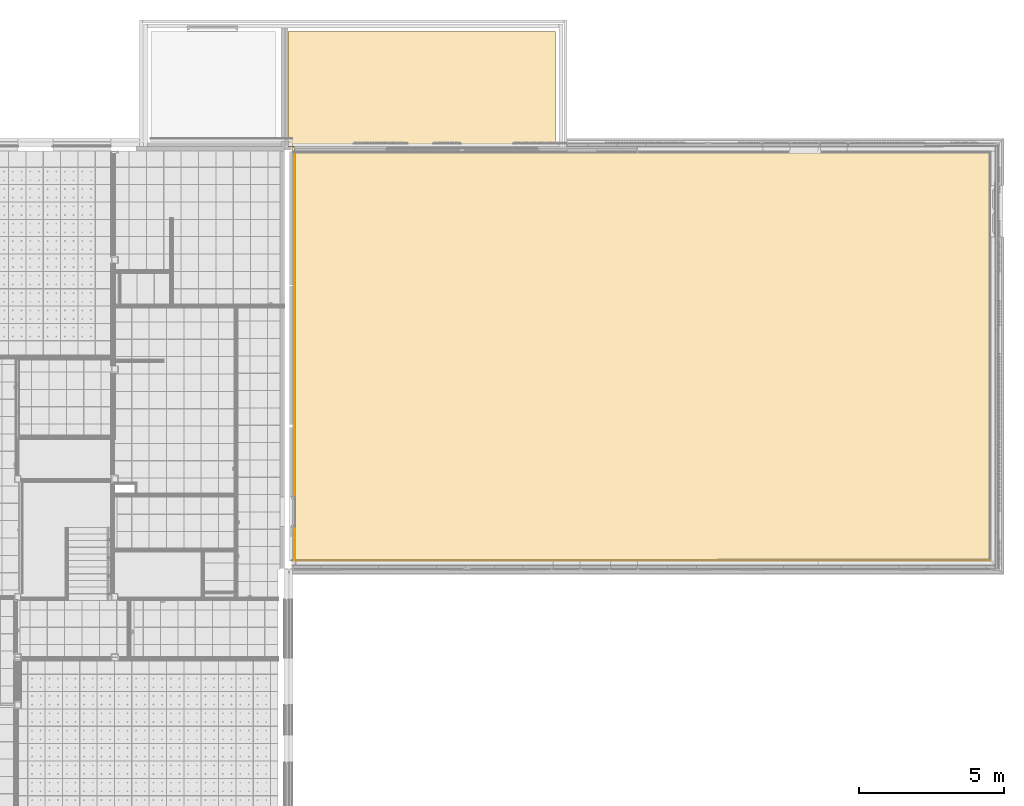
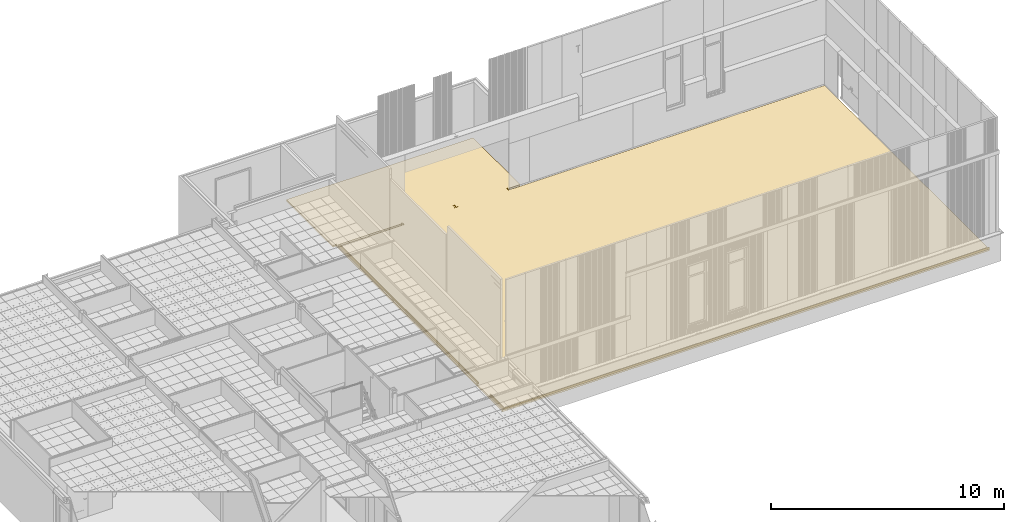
# One storey, part 119 of 338: 4 coverings.
"""IFC2X3 building model written with IfcOpenShell, lengths in millimetres."""

from ifc_helpers import new_model, entity, si_unit, converted_unit, derived_unit, money_unit, direction, frame, origin_with_axes, place, context, subcontext, project, spatial, faceted_brep, material, type_object, element, save


model = new_model("IFC2X3")

# Units and contexts
model_context = context("Model", 3, precision=0.01, world=origin_with_axes(), true_north=direction((0.0, 1.0)))
plan_context = context("Plan", 3, precision=0.01, world=origin_with_axes(), true_north=direction((0.0, 1.0)))
body_context = subcontext(model_context, "Body", "Model", "MODEL_VIEW")
ifc_project = project(units=[si_unit("LENGTHUNIT", "METRE", prefix="MILLI"), si_unit("AREAUNIT", "SQUARE_METRE"), si_unit("VOLUMEUNIT", "CUBIC_METRE"), converted_unit("PLANEANGLEUNIT", "DEGREE", entity("IfcPlaneAngleMeasure", 0.0174532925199), si_unit("PLANEANGLEUNIT", "RADIAN"), dimensions=[0, 0, 0, 0, 0, 0, 0]), money_unit("EUR"), converted_unit("TIMEUNIT", "Year", entity("IfcTimeMeasure", 31556926.0), si_unit("TIMEUNIT", "SECOND"), dimensions=[0, 0, 1, 0, 0, 0, 0]), si_unit("MASSUNIT", "GRAM", prefix="KILO"), si_unit("THERMODYNAMICTEMPERATUREUNIT", "DEGREE_CELSIUS"), si_unit("LUMINOUSINTENSITYUNIT", "LUMEN"), si_unit("ENERGYUNIT", "JOULE", prefix="MEGA"), derived_unit("THERMALCONDUCTANCEUNIT", [(si_unit("POWERUNIT", "WATT"), 1), (si_unit("LENGTHUNIT", "METRE"), -1), (si_unit("THERMODYNAMICTEMPERATUREUNIT", "KELVIN"), -1)]), derived_unit("SPECIFICHEATCAPACITYUNIT", [(si_unit("ENERGYUNIT", "JOULE"), 1), (si_unit("MASSUNIT", "GRAM", prefix="KILO"), -1), (si_unit("THERMODYNAMICTEMPERATUREUNIT", "KELVIN"), -1)]), derived_unit("MASSDENSITYUNIT", [(si_unit("MASSUNIT", "GRAM", prefix="KILO"), 1), (si_unit("VOLUMEUNIT", "CUBIC_METRE"), -1)])], contexts=[model_context, plan_context])

# Site, building, storey
site_placement = place(None, origin_with_axes())
site = spatial("IfcSite", under=ifc_project, at=site_placement, Name="Fortuinstraat Woensdrecht", CompositionType="ELEMENT")
building_placement = place(site_placement, origin_with_axes())
building = spatial("IfcBuilding", under=site, at=building_placement, Name="IKC Fortuna", CompositionType="ELEMENT")
storey_placement = place(building_placement, origin_with_axes())
storey = spatial("IfcBuildingStorey", under=building, at=storey_placement, Name="00 begane grond", CompositionType="ELEMENT", Elevation=0.0)

# Coverings
ifc_material_1 = material(Name="Cement")
covering_type_1 = type_object("IfcCoveringType", Name="43 Vloerafwerking gym 90", PredefinedType="FLOORING")
covering_1_placement = place(storey_placement, frame((34953.4270571, 39476.2966282, 0.0), z_axis=(0.0, 0.0, 1.0), x_axis=(1.0, 0.0, 0.0)))
element("IfcCovering", 1, at=covering_1_placement, inside=storey, type_object=covering_type_1, material=ifc_material_1, Name="43_Vloerafwerking_Vloerafwerking", PredefinedType="FLOORING", context=body_context, shape_type="Brep", body=[
    faceted_brep([(118.0, -3989.5, 0.0), (46.0, -3989.5, 0.0), (46.0, -3980.0, 0.0), (226.0, -3980.0, 0.0), (226.0, -3989.5, 0.0), (154.0, -3989.5, 0.0), (146.5, -3991.50961894, 0.0), (141.009618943, -3997.0, 0.0), (140.205771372, -3999.99999998, 0.0), (159.99999994, -3999.99999998, 0.0), (159.99999994, -4141.5, 0.0), (226.0, -4141.5, 0.0), (226.0, -4051.00375726, 0.0), (3380.0, -4051.00375726, 0.0), (3380.0, -4147.73834071, 0.0), (3381.32601889, -4144.34690108, 0.0), (3384.60074511, -4142.75430665, 0.0), (3423.79850978, -4139.61430017, 0.0), (3430.34796223, -4136.42911131, 0.0), (3433.0, -4129.64623205, 0.0), (3433.0, -4032.35382392, 0.0), (3430.34796223, -4025.57094466, 0.0), (3423.79850978, -4022.3857558, 0.0), (3384.60074511, -4019.24574932, 0.0), (3381.32601889, -4017.65315489, 0.0), (3380.0, -4014.26171526, 0.0), (3380.0, -4011.00002798, 0.0), (3440.0, -4011.00002798, 0.0), (3440.0, -4151.00002798, 0.0), (159.99999994, -4151.0, 0.0), (159.99999994, -8777.0, 0.0), (197.0, -8777.0, 0.0), (204.5, -8774.99038106, 0.0), (209.990381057, -8769.5, 0.0), (212.0, -8762.0, 0.0), (212.0, -8690.0, 0.0), (221.5, -8690.0, 0.0), (221.5, -8870.0, 0.0), (212.0, -8870.0, 0.0), (212.0, -8798.0, 0.0), (209.990381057, -8790.5, 0.0), (204.5, -8785.00961894, 0.0), (197.0, -8783.0, 0.0), (159.99999994, -8783.0, 0.0), (159.99999994, -13677.0, 0.0), (197.0, -13677.0, 0.0), (204.5, -13674.9903811, 0.0), (209.990381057, -13669.5, 0.0), (212.0, -13662.0, 0.0), (212.0, -13590.0, 0.0), (221.5, -13590.0, 0.0), (221.5, -13770.0, 0.0), (212.0, -13770.0, 0.0), (212.0, -13698.0, 0.0), (209.990381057, -13690.5, 0.0), (204.5, -13685.0096189, 0.0), (197.0, -13683.0, 0.0), (159.99999994, -13683.0, 0.0), (159.99999994, -16090.6706794, 0.0), (165.429083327, -16088.5479622, 0.0), (168.614272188, -16081.9985098, 0.0), (171.754278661, -16042.8007451, 0.0), (173.346873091, -16039.5260189, 0.0), (176.738312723, -16038.2, 0.0), (180.0, -16038.2, 0.0), (180.0, -16098.2, 0.0), (159.99999994, -16098.2, 0.0), (159.99999994, -17132.2, 0.0), (180.0, -17132.2, 0.0), (180.0, -17192.2, 0.0), (176.738312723, -17192.2, 0.0), (173.346873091, -17190.8739811, 0.0), (171.754278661, -17187.5992549, 0.0), (168.614272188, -17148.4014902, 0.0), (165.429083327, -17141.8520378, 0.0), (159.99999994, -17139.7293206, 0.0), (159.99999994, -18309.0, 0.0), (24309.0, -18309.0, 0.0), (24309.0, -4151.0, 0.0), (9260.00089506, -4151.0, 0.0), (8620.0, -4151.00001699, 0.0), (8620.0, -4011.00001699, 0.0), (8680.0, -4011.00001699, 0.0), (8680.0, -4014.26170426, 0.0), (8678.67398111, -4017.6531439, 0.0), (8675.39925489, -4019.24573833, 0.0), (8636.20149022, -4022.3857448, 0.0), (8629.65203777, -4025.57093366, 0.0), (8627.0, -4032.35381292, 0.0), (8627.0, -4129.64622105, 0.0), (8629.65203777, -4136.42910031, 0.0), (8636.20149022, -4139.61428918, 0.0), (8675.39925489, -4142.75429565, 0.0), (8678.67398111, -4144.34689008, 0.0), (8680.0, -4147.73832971, 0.0), (8680.0, -4051.0, 0.0), (9260.00089506, -4051.0, 0.0), (9260.00089506, 0.0, 0.0), (0.0, 0.0, 0.0), (0.0, -3999.99999998, 0.0), (131.794228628, -3999.99999998, 0.0), (130.990381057, -3997.0, 0.0), (125.5, -3991.50961894, 0.0), (6019.5, -3991.50961894, 0.0), (6012.0, -3989.5, 0.0), (5940.0, -3989.5, 0.0), (5940.0, -3980.0, 0.0), (6120.0, -3980.0, 0.0), (6120.0, -3989.5, 0.0), (6048.0, -3989.5, 0.0), (6040.5, -3991.50961894, 0.0), (6035.00961894, -3997.0, 0.0), (6033.0, -4004.5, 0.0), (6033.0, -4126.5, 0.0), (6035.00961894, -4134.0, 0.0), (6040.5, -4139.49038106, 0.0), (6048.0, -4141.5, 0.0), (6120.0, -4141.5, 0.0), (6120.0, -4151.0, 0.0), (5940.0, -4151.0, 0.0), (5940.0, -4141.5, 0.0), (6012.0, -4141.5, 0.0), (6019.5, -4139.49038106, 0.0), (6024.99038106, -4134.0, 0.0), (6027.0, -4126.5, 0.0), (6027.0, -4004.5, 0.0), (6024.99038106, -3997.0, 0.0), (46.0, -3989.5, -50.0), (118.0, -3989.5, -50.0), (46.0, -3980.0, -50.0), (226.0, -3980.0, -50.0), (226.0, -3989.5, -50.0), (154.0, -3989.5, -50.0), (146.5, -3991.50961894, -50.0), (141.009618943, -3997.0, -50.0), (140.205771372, -3999.99999998, -50.0), (131.794228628, -3999.99999998, -50.0), (0.0, -3999.99999998, -90.0), (159.99999994, -3999.99999998, -90.0), (159.99999994, -4151.0, -50.0), (159.99999994, -4141.5, -50.0), (159.99999994, -16090.6706794, -90.0), (159.99999994, -13683.0, -50.0), (159.99999994, -13677.0, -50.0), (159.99999994, -8783.0, -50.0), (159.99999994, -8777.0, -50.0), (226.0, -4141.5, -50.0), (226.0, -4151.0, -50.0), (226.0, -4151.00375726, -90.0), (226.0, -4051.00375726, -90.0), (3380.0, -4051.00375726, -90.0), (3380.0, -4147.73834071, -50.0), (3380.0, -4151.00375726, -90.0), (3380.0, -4151.00002798, -50.0), (3381.32601889, -4144.34690108, -50.0), (3384.60074511, -4142.75430665, -50.0), (3423.79850978, -4139.61430017, -50.0), (3430.34796223, -4136.42911131, -50.0), (3433.0, -4129.64623205, -50.0), (3433.0, -4032.35382392, -50.0), (3430.34796223, -4025.57094466, -50.0), (3423.79850978, -4022.3857558, -50.0), (3384.60074511, -4019.24574932, -50.0), (3381.32601889, -4017.65315489, -50.0), (3380.0, -4014.26171526, -50.0), (3380.0, -4011.00002798, -50.0), (3440.0, -4011.00002798, -50.0), (3440.0, -4151.00002798, -50.0), (197.0, -8777.0, -50.0), (204.5, -8774.99038106, -50.0), (209.990381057, -8769.5, -50.0), (212.0, -8762.0, -50.0), (212.0, -8690.0, -50.0), (221.5, -8690.0, -50.0), (221.5, -8870.0, -50.0), (212.0, -8870.0, -50.0), (212.0, -8798.0, -50.0), (209.990381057, -8790.5, -50.0), (204.5, -8785.00961894, -50.0), (197.0, -8783.0, -50.0), (197.0, -13677.0, -50.0), (204.5, -13674.9903811, -50.0), (209.990381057, -13669.5, -50.0), (212.0, -13662.0, -50.0), (212.0, -13590.0, -50.0), (221.5, -13590.0, -50.0), (221.5, -13770.0, -50.0), (212.0, -13770.0, -50.0), (212.0, -13698.0, -50.0), (209.990381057, -13690.5, -50.0), (204.5, -13685.0096189, -50.0), (197.0, -13683.0, -50.0), (165.429083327, -16088.5479622, -90.0), (168.614272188, -16081.9985098, -90.0), (171.754278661, -16042.8007451, -90.0), (173.346873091, -16039.5260189, -90.0), (176.738312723, -16038.2, -90.0), (180.0, -16038.2, -90.0), (180.0, -16098.2, -90.0), (159.99999994, -16098.2, -90.0), (159.99999994, -17132.2, -90.0), (180.0, -17132.2, -90.0), (180.0, -17192.2, -90.0), (176.738312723, -17192.2, -90.0), (173.346873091, -17190.8739811, -90.0), (171.754278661, -17187.5992549, -90.0), (168.614272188, -17148.4014902, -90.0), (165.429083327, -17141.8520378, -90.0), (159.99999994, -17139.7293206, -90.0), (159.99999994, -18309.1468464, -90.0), (159.99999994, -18309.1468464, -50.0), (159.99999994, -18309.0, -50.0), (18420.0, -18309.0, -50.0), (18420.0, -18309.0, -90.0), (24300.0, -18309.0, -90.0), (24300.0, -18309.0, -50.0), (24309.0, -18309.0, -50.0), (226.0, -18309.0, -50.0), (226.0, -18309.0, -90.0), (5940.0, -18309.0, -90.0), (5940.0, -18309.0, -50.0), (6120.0, -18309.0, -50.0), (6120.0, -18309.0, -90.0), (12090.0000037, -18309.0, -90.0), (12090.0, -18309.0, -50.0), (12270.0, -18309.0, -50.0), (12270.0, -18309.0, -90.0), (18240.0, -18309.0, -90.0), (18240.0, -18309.0, -50.0), (24309.0, -4151.0, -90.0), (24309.0, -18309.1468464, -50.0), (24309.0, -18309.1468464, -90.0), (9260.00089506, -4151.0, -90.0), (8680.0, -4151.0, -90.0), (8680.0, -4151.00001699, -50.0), (8620.0, -4151.00001699, -50.0), (8620.0, -4011.00001699, -50.0), (8680.0, -4011.00001699, -50.0), (8680.0, -4014.26170426, -50.0), (8678.67398111, -4017.6531439, -50.0), (8675.39925489, -4019.24573833, -50.0), (8636.20149022, -4022.3857448, -50.0), (8629.65203777, -4025.57093366, -50.0), (8627.0, -4032.35381292, -50.0), (8627.0, -4129.64622105, -50.0), (8629.65203777, -4136.42910031, -50.0), (8636.20149022, -4139.61428918, -50.0), (8675.39925489, -4142.75429565, -50.0), (8678.67398111, -4144.34689008, -50.0), (8680.0, -4147.73832971, -50.0), (8680.0, -4051.0, -90.0), (9260.00089506, -4051.0, -90.0), (9260.00089506, 0.0, -90.0), (0.0, 0.0, -90.0), (130.990381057, -3997.0, -50.0), (125.5, -3991.50961894, -50.0), (6019.5, -3991.50961894, -50.0), (6012.0, -3989.5, -50.0), (5940.0, -3989.5, -50.0), (5940.0, -3980.0, -50.0), (6120.0, -3980.0, -50.0), (6120.0, -3989.5, -50.0), (6048.0, -3989.5, -50.0), (6040.5, -3991.50961894, -50.0), (6035.00961894, -3997.0, -50.0), (6033.0, -4004.5, -50.0), (6033.0, -4126.5, -50.0), (6035.00961894, -4134.0, -50.0), (6040.5, -4139.49038106, -50.0), (6048.0, -4141.5, -50.0), (6120.0, -4141.5, -50.0), (6120.0, -4151.0, -50.0), (5940.0, -4151.0, -50.0), (5940.0, -4141.5, -50.0), (6012.0, -4141.5, -50.0), (6019.5, -4139.49038106, -50.0), (6024.99038106, -4134.0, -50.0), (6027.0, -4126.5, -50.0), (6027.0, -4004.5, -50.0), (6024.99038106, -3997.0, -50.0), (226.0, -18309.1468464, -90.0), (24300.0, -18309.1468464, -90.0), (18420.0, -18309.1468464, -90.0), (18240.0, -18309.1468464, -90.0), (12270.0, -18309.1468464, -90.0), (12090.0000168, -18309.1468464, -90.0), (6120.0, -18309.1468464, -90.0), (5940.0, -18309.1468464, -90.0), (226.0, -18309.1468464, -50.0), (18420.0, -18309.1468464, -50.0), (24300.0, -18309.1468464, -50.0), (5940.0, -18309.1468464, -50.0), (6120.0, -18309.1468464, -50.0), (12090.0, -18309.1468464, -50.0), (12270.0, -18309.1468464, -50.0), (18240.0, -18309.1468464, -50.0)], [[[0, 1, 2, 3, 4, 5, 6, 7, 8, 9, 10, 11, 12, 13, 14, 15, 16, 17, 18, 19, 20, 21, 22, 23, 24, 25, 26, 27, 28, 29, 30, 31, 32, 33, 34, 35, 36, 37, 38, 39, 40, 41, 42, 43, 44, 45, 46, 47, 48, 49, 50, 51, 52, 53, 54, 55, 56, 57, 58, 59, 60, 61, 62, 63, 64, 65, 66, 67, 68, 69, 70, 71, 72, 73, 74, 75, 76, 77, 78, 79, 80, 81, 82, 83, 84, 85, 86, 87, 88, 89, 90, 91, 92, 93, 94, 95, 96, 97, 98, 99, 100, 101, 102], [103, 104, 105, 106, 107, 108, 109, 110, 111, 112, 113, 114, 115, 116, 117, 118, 119, 120, 121, 122, 123, 124, 125, 126]], [[127, 1, 0, 128]], [[129, 2, 1, 127]], [[130, 3, 2, 129]], [[131, 4, 3, 130]], [[132, 5, 4, 131]], [[133, 6, 5, 132]], [[134, 7, 6, 133]], [[135, 8, 7, 134]], [[135, 136, 100, 99, 137, 138, 9, 8]], [[139, 140, 10, 9, 138, 141, 58, 57, 142, 143, 44, 43, 144, 145, 30, 29]], [[140, 146, 11, 10]], [[11, 146, 147, 148, 149, 12]], [[150, 13, 12, 149]], [[151, 14, 13, 150, 152, 153]], [[15, 14, 151, 154]], [[16, 15, 154, 155]], [[17, 16, 155, 156]], [[18, 17, 156, 157]], [[19, 18, 157, 158]], [[20, 19, 158, 159]], [[21, 20, 159, 160]], [[22, 21, 160, 161]], [[23, 22, 161, 162]], [[24, 23, 162, 163]], [[25, 24, 163, 164]], [[26, 25, 164, 165]], [[27, 26, 165, 166]], [[28, 27, 166, 167]], [[148, 147, 139, 29, 28, 167, 153, 152]], [[30, 145, 168, 31]], [[31, 168, 169, 32]], [[32, 169, 170, 33]], [[33, 170, 171, 34]], [[34, 171, 172, 35]], [[35, 172, 173, 36]], [[36, 173, 174, 37]], [[37, 174, 175, 38]], [[38, 175, 176, 39]], [[39, 176, 177, 40]], [[40, 177, 178, 41]], [[41, 178, 179, 42]], [[42, 179, 144, 43]], [[45, 44, 143, 180]], [[46, 45, 180, 181]], [[47, 46, 181, 182]], [[48, 47, 182, 183]], [[49, 48, 183, 184]], [[50, 49, 184, 185]], [[51, 50, 185, 186]], [[52, 51, 186, 187]], [[53, 52, 187, 188]], [[54, 53, 188, 189]], [[55, 54, 189, 190]], [[56, 55, 190, 191]], [[57, 56, 191, 142]], [[192, 59, 58, 141]], [[193, 60, 59, 192]], [[194, 61, 60, 193]], [[195, 62, 61, 194]], [[196, 63, 62, 195]], [[197, 64, 63, 196]], [[198, 65, 64, 197]], [[199, 66, 65, 198]], [[66, 199, 200, 67]], [[200, 201, 68, 67]], [[201, 202, 69, 68]], [[202, 203, 70, 69]], [[203, 204, 71, 70]], [[204, 205, 72, 71]], [[205, 206, 73, 72]], [[206, 207, 74, 73]], [[207, 208, 75, 74]], [[208, 209, 210, 211, 76, 75]], [[212, 213, 214, 215, 216, 77, 76, 211, 217, 218, 219, 220, 221, 222, 223, 224, 225, 226, 227, 228]], [[229, 78, 77, 216, 230, 231]], [[229, 232, 79, 78]], [[80, 79, 232, 233, 234, 235]], [[80, 235, 236, 81]], [[81, 236, 237, 82]], [[82, 237, 238, 83]], [[83, 238, 239, 84]], [[84, 239, 240, 85]], [[85, 240, 241, 86]], [[86, 241, 242, 87]], [[87, 242, 243, 88]], [[88, 243, 244, 89]], [[89, 244, 245, 90]], [[90, 245, 246, 91]], [[91, 246, 247, 92]], [[92, 247, 248, 93]], [[94, 93, 248, 249]], [[234, 233, 250, 95, 94, 249]], [[250, 251, 96, 95]], [[97, 96, 251, 252]], [[98, 97, 252, 253]], [[99, 98, 253, 137]], [[254, 101, 100, 136]], [[255, 102, 101, 254]], [[128, 0, 102, 255]], [[256, 257, 104, 103]], [[257, 258, 105, 104]], [[258, 259, 106, 105]], [[259, 260, 107, 106]], [[260, 261, 108, 107]], [[261, 262, 109, 108]], [[262, 263, 110, 109]], [[263, 264, 111, 110]], [[264, 265, 112, 111]], [[265, 266, 113, 112]], [[266, 267, 114, 113]], [[267, 268, 115, 114]], [[268, 269, 116, 115]], [[269, 270, 117, 116]], [[270, 271, 118, 117]], [[271, 272, 119, 118]], [[272, 273, 120, 119]], [[273, 274, 121, 120]], [[274, 275, 122, 121]], [[275, 276, 123, 122]], [[276, 277, 124, 123]], [[277, 278, 125, 124]], [[278, 279, 126, 125]], [[279, 256, 103, 126]], [[254, 136, 135, 134, 133, 132, 131, 130, 129, 127, 128, 255]], [[218, 280, 209, 208, 207, 206, 205, 204, 203, 202, 201, 200, 199, 198, 197, 196, 195, 194, 193, 192, 141, 138, 137, 253, 252, 251, 250, 233, 232, 229, 231, 281, 214, 213, 282, 283, 227, 226, 284, 285, 223, 222, 286, 287, 219], [149, 148, 152, 150]], [[139, 147, 146, 140]], [[187, 186, 185, 184, 183, 182, 181, 180, 143, 142, 191, 190, 189, 188]], [[174, 173, 172, 171, 170, 169, 168, 145, 144, 179, 178, 177, 176, 175]], [[165, 164, 163, 162, 161, 160, 159, 158, 157, 156, 155, 154, 151, 153, 167, 166]], [[280, 288, 210, 209]], [[210, 288, 217, 211]], [[212, 289, 282, 213]], [[215, 214, 281, 290]], [[216, 215, 290, 230]], [[218, 217, 288, 280]], [[219, 287, 291, 220]], [[220, 291, 292, 221]], [[286, 222, 221, 292]], [[285, 293, 224, 223]], [[293, 294, 225, 224]], [[226, 225, 294, 284]], [[295, 228, 227, 283]], [[289, 212, 228, 295]], [[290, 281, 231, 230]], [[245, 244, 243, 242, 241, 240, 239, 238, 237, 236, 235, 234, 249, 248, 247, 246]], [[273, 272, 271, 270, 269, 268, 267, 266, 265, 264, 263, 262, 261, 260, 259, 258, 257, 256, 279, 278, 277, 276, 275, 274]], [[289, 295, 283, 282]], [[284, 294, 293, 285]], [[287, 286, 292, 291]]]),
])
ifc_material_2 = material(Name="Hout - Multiplex 90")
covering_type_2 = type_object("IfcCoveringType", Name="Hout - Multiplex 90 24 x 90", PredefinedType="CLADDING")
covering_2_placement = place(storey_placement, frame((59262.4270571, 21167.2966283, 0.0), z_axis=(0.0, 0.0, 1.0), x_axis=(0.0, 1.0, 0.0)))
element("IfcCovering", 2, at=covering_2_placement, inside=storey, type_object=covering_type_2, material=ifc_material_2, Name="42_Wandafwerking_Plint", PredefinedType="CLADDING", context=body_context, shape_type="Brep", body=[
    faceted_brep([(24.0, 24.0, 0.0), (0.0, 0.0, 0.0), (0.0, 24087.4999916, 0.0), (24.0, 24063.4999917, 0.0), (24.0, 24.0, 90.0), (0.0, 0.0, 90.0), (0.0, 24087.4999916, 90.0), (24.0, 24063.4999917, 90.0)], [[[0, 1, 2, 3]], [[4, 5, 1, 0]], [[1, 5, 6, 2]], [[7, 3, 2, 6]], [[4, 0, 3, 7]], [[5, 4, 7, 6]]]),
])
covering_3_placement = place(storey_placement, frame((35174.9270656, 21167.2966283, 0.0), z_axis=(0.0, 0.0, 1.0), x_axis=(1.0, 7.1277670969e-09, 0.0)))
element("IfcCovering", 3, at=covering_3_placement, inside=storey, type_object=covering_type_2, material=ifc_material_2, Name="42_Wandafwerking_Plint", PredefinedType="CLADDING", context=body_context, shape_type="Brep", body=[
    faceted_brep([(0.0, 0.0, 0.0), (0.0, 1183.2169201, 0.0), (24.0, 1183.2169201, 0.0), (24.0, 23.9999998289, 0.0), (0.0, 0.0, 90.0), (0.0, 1183.2169201, 90.0), (24.0, 1183.2169201, 90.0), (24.0, 23.9999998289, 90.0)], [[[0, 1, 2, 3]], [[4, 5, 1, 0]], [[2, 1, 5, 6]], [[3, 2, 6, 7]], [[4, 0, 3, 7]], [[7, 6, 5, 4]]]),
])
covering_4_placement = place(storey_placement, frame((35174.9270571, 23384.5135484, 0.0), z_axis=(0.0, 0.0, 1.0), x_axis=(1.0, 0.0, 0.0)))
element("IfcCovering", 4, at=covering_4_placement, inside=storey, type_object=covering_type_2, material=ifc_material_2, Name="42_Wandafwerking_Plint", PredefinedType="CLADDING", context=body_context, shape_type="Brep", body=[
    faceted_brep([(24.0, 11916.7830799, 0.0), (24.0, 0.0, 0.0), (0.0, 0.0, 0.0), (0.0, 11940.7830799, 0.0), (24.0, 11916.7830799, 90.0), (24.0, 0.0, 90.0), (0.0, 0.0, 90.0), (0.0, 11940.7830799, 90.0)], [[[0, 1, 2, 3]], [[4, 5, 1, 0]], [[1, 5, 6, 2]], [[3, 2, 6, 7]], [[7, 4, 0, 3]], [[7, 6, 5, 4]]]),
])

save(model, "model.ifc")
